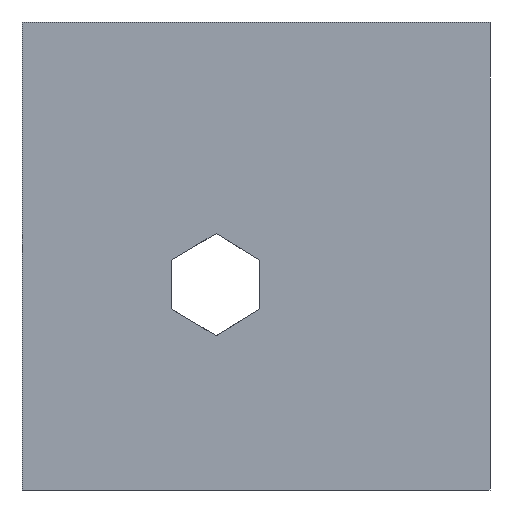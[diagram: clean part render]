
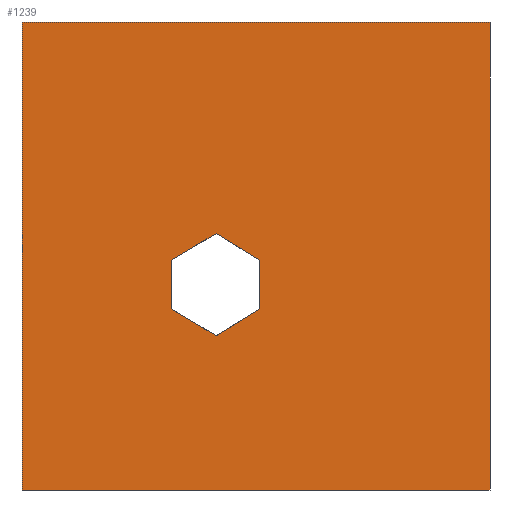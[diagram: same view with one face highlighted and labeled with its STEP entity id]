
A CAD part, front view. The second image highlights one B-rep face of the part: STEP entity #1239.
In plain terms, the highlighted planar face has unit normal (0, -1, 0).
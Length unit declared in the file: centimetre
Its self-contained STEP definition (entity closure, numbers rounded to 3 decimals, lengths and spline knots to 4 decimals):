
#8 = CARTESIAN_POINT ( 'NONE',  ( 1000., 0., 1000. ) ) ;
#26 = EDGE_CURVE ( 'NONE', #1208, #748, #149, .T. ) ;
#31 = CARTESIAN_POINT ( 'NONE',  ( 0., 0., 1000. ) ) ;
#37 = DIRECTION ( 'NONE',  ( 0., 1., 0. ) ) ;
#72 = ORIENTED_EDGE ( 'NONE', *, *, #229, .F. ) ;
#82 = CARTESIAN_POINT ( 'NONE',  ( 318.8221, 0., 491.0291 ) ) ;
#88 = ORIENTED_EDGE ( 'NONE', *, *, #1495, .T. ) ;
#118 = VECTOR ( 'NONE', #907, 100. ) ;
#135 = CARTESIAN_POINT ( 'NONE',  ( 0., 0., 1000. ) ) ;
#143 = LINE ( 'NONE', #656, #252 ) ;
#149 = LINE ( 'NONE', #396, #118 ) ;
#160 = CARTESIAN_POINT ( 'NONE',  ( 1000., 0., 0. ) ) ;
#180 = CARTESIAN_POINT ( 'NONE',  ( 508.1388, 0., 491.0291 ) ) ;
#191 = DIRECTION ( 'NONE',  ( -0.859, 0., -0.511 ) ) ;
#229 = EDGE_CURVE ( 'NONE', #1065, #1195, #1176, .T. ) ;
#241 = DIRECTION ( 'NONE',  ( 0., 0., -1. ) ) ;
#252 = VECTOR ( 'NONE', #1308, 100. ) ;
#268 = CARTESIAN_POINT ( 'NONE',  ( 0., 0., 1000. ) ) ;
#279 = CARTESIAN_POINT ( 'NONE',  ( 318.8221, 0., 386.8318 ) ) ;
#287 = LINE ( 'NONE', #135, #705 ) ;
#335 = EDGE_LOOP ( 'NONE', ( #1634, #700, #72, #1611, #986, #950 ) ) ;
#340 = CARTESIAN_POINT ( 'NONE',  ( 508.1388, 0., 491.0291 ) ) ;
#347 = EDGE_CURVE ( 'NONE', #717, #1018, #838, .T. ) ;
#373 = LINE ( 'NONE', #82, #1433 ) ;
#396 = CARTESIAN_POINT ( 'NONE',  ( 1000., 0., 1000. ) ) ;
#399 = CARTESIAN_POINT ( 'NONE',  ( 508.1388, 0., 386.8318 ) ) ;
#407 = CARTESIAN_POINT ( 'NONE',  ( 508.1388, 0., 386.8318 ) ) ;
#441 = CARTESIAN_POINT ( 'NONE',  ( 414.954, 0., 329.6284 ) ) ;
#475 = ORIENTED_EDGE ( 'NONE', *, *, #1217, .T. ) ;
#529 = CARTESIAN_POINT ( 'NONE',  ( 414.954, 0., 329.6284 ) ) ;
#539 = FACE_BOUND ( 'NONE', #335, .T. ) ;
#634 = VECTOR ( 'NONE', #1200, 100. ) ;
#635 = ORIENTED_EDGE ( 'NONE', *, *, #26, .F. ) ;
#656 = CARTESIAN_POINT ( 'NONE',  ( 0., 0., 1000. ) ) ;
#672 = FACE_OUTER_BOUND ( 'NONE', #1253, .T. ) ;
#697 = DIRECTION ( 'NONE',  ( 0., 0., 1. ) ) ;
#700 = ORIENTED_EDGE ( 'NONE', *, *, #1191, .F. ) ;
#701 = EDGE_CURVE ( 'NONE', #1018, #886, #373, .T. ) ;
#705 = VECTOR ( 'NONE', #1426, 100. ) ;
#707 = LINE ( 'NONE', #1592, #634 ) ;
#717 = VERTEX_POINT ( 'NONE', #1621 ) ;
#718 = EDGE_CURVE ( 'NONE', #1358, #717, #1140, .T. ) ;
#748 = VERTEX_POINT ( 'NONE', #160 ) ;
#777 = LINE ( 'NONE', #1230, #1087 ) ;
#838 = LINE ( 'NONE', #1345, #1514 ) ;
#852 = VECTOR ( 'NONE', #1655, 100. ) ;
#855 = DIRECTION ( 'NONE',  ( -0.852, 0., 0.523 ) ) ;
#886 = VERTEX_POINT ( 'NONE', #279 ) ;
#897 = ORIENTED_EDGE ( 'NONE', *, *, #1199, .F. ) ;
#907 = DIRECTION ( 'NONE',  ( 0., 0., -1. ) ) ;
#908 = VERTEX_POINT ( 'NONE', #1461 ) ;
#950 = ORIENTED_EDGE ( 'NONE', *, *, #347, .F. ) ;
#986 = ORIENTED_EDGE ( 'NONE', *, *, #701, .F. ) ;
#1018 = VERTEX_POINT ( 'NONE', #1454 ) ;
#1065 = VERTEX_POINT ( 'NONE', #441 ) ;
#1087 = VECTOR ( 'NONE', #1394, 100. ) ;
#1114 = VECTOR ( 'NONE', #855, 100. ) ;
#1128 = VERTEX_POINT ( 'NONE', #268 ) ;
#1140 = LINE ( 'NONE', #340, #1114 ) ;
#1176 = LINE ( 'NONE', #529, #852 ) ;
#1178 = PLANE ( 'NONE',  #1406 ) ;
#1191 = EDGE_CURVE ( 'NONE', #1195, #1358, #1554, .T. ) ;
#1195 = VERTEX_POINT ( 'NONE', #407 ) ;
#1199 = EDGE_CURVE ( 'NONE', #1128, #1208, #287, .T. ) ;
#1200 = DIRECTION ( 'NONE',  ( 0.859, 0., -0.511 ) ) ;
#1208 = VERTEX_POINT ( 'NONE', #8 ) ;
#1210 = VECTOR ( 'NONE', #1281, 100. ) ;
#1217 = EDGE_CURVE ( 'NONE', #1128, #908, #143, .T. ) ;
#1230 = CARTESIAN_POINT ( 'NONE',  ( 0., 0., 0. ) ) ;
#1239 = ADVANCED_FACE ( 'NONE', ( #539, #672 ), #1178, .F. ) ;
#1253 = EDGE_LOOP ( 'NONE', ( #88, #635, #897, #475 ) ) ;
#1281 = DIRECTION ( 'NONE',  ( 0., 0., 1. ) ) ;
#1308 = DIRECTION ( 'NONE',  ( 0., 0., -1. ) ) ;
#1345 = CARTESIAN_POINT ( 'NONE',  ( 414.954, 0., 548.2325 ) ) ;
#1358 = VERTEX_POINT ( 'NONE', #180 ) ;
#1366 = EDGE_CURVE ( 'NONE', #886, #1065, #707, .T. ) ;
#1394 = DIRECTION ( 'NONE',  ( 1., 0., 0. ) ) ;
#1406 = AXIS2_PLACEMENT_3D ( 'NONE', #31, #37, #697 ) ;
#1426 = DIRECTION ( 'NONE',  ( 1., 0., 0. ) ) ;
#1433 = VECTOR ( 'NONE', #241, 100. ) ;
#1454 = CARTESIAN_POINT ( 'NONE',  ( 318.8221, 0., 491.0291 ) ) ;
#1461 = CARTESIAN_POINT ( 'NONE',  ( 0., 0., 0. ) ) ;
#1495 = EDGE_CURVE ( 'NONE', #908, #748, #777, .T. ) ;
#1514 = VECTOR ( 'NONE', #191, 100. ) ;
#1554 = LINE ( 'NONE', #399, #1210 ) ;
#1592 = CARTESIAN_POINT ( 'NONE',  ( 318.8221, 0., 386.8318 ) ) ;
#1611 = ORIENTED_EDGE ( 'NONE', *, *, #1366, .F. ) ;
#1621 = CARTESIAN_POINT ( 'NONE',  ( 414.954, 0., 548.2325 ) ) ;
#1634 = ORIENTED_EDGE ( 'NONE', *, *, #718, .F. ) ;
#1655 = DIRECTION ( 'NONE',  ( 0.852, 0., 0.523 ) ) ;
